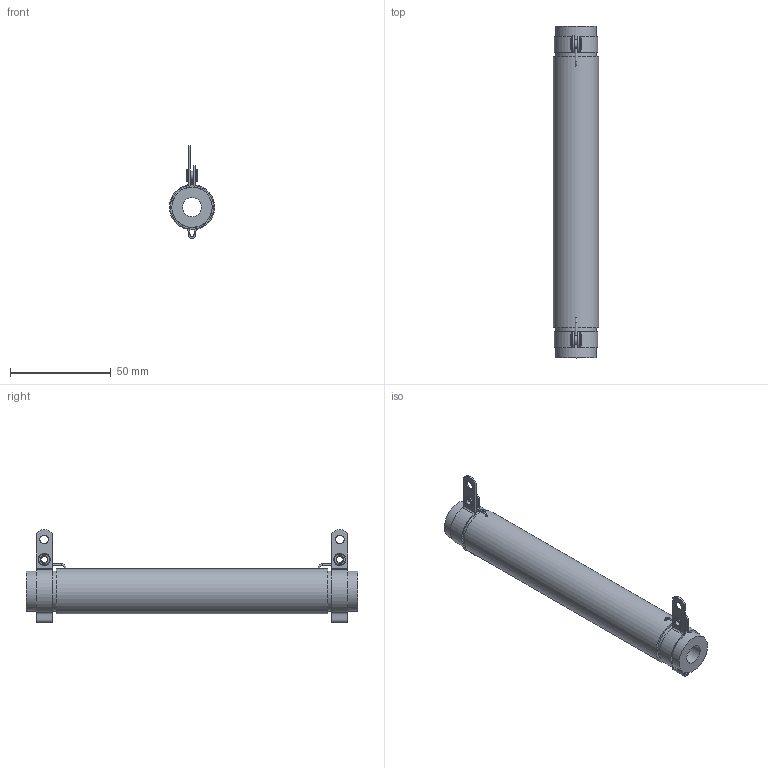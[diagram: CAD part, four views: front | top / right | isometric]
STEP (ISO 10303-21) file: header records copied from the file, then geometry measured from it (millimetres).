
FILE_DESCRIPTION(/* description */ (''),/* implementation_level */ '2;1');
FILE_NAME(/* name */ 'C:\_Vault\Dati\CATALOGO\RC-RS\TC\RS00110.stp',/* time_stamp */ '2014-01-22T17:38:04+01:00',/* author */ ('stefano'),/* organization */ (''),/* preprocessor_version */ 'ST-DEVELOPER v15.2',/* originating_system */ 'Autodesk Inventor 2014',/* authorisation */ '');
FILE_SCHEMA (('AUTOMOTIVE_DESIGN { 1 0 10303 214 3 1 1 }'));
Length unit declared in the file: millimetre
Products named in the file (1): RS00110
Bounding box: 22.5 x 165 x 46.2 mm (x, y, z)
Volume: 52717.7 mm3; surface area: 19047.1 mm2
Topology: 1 solids, 5 shells, 88 faces, 213 edges, 141 vertices
Faces by surface type: cylinder 38, plane 32, torus 10, bspline 8
Full cylindrical faces by diameter (mm): 0.4 x2, 0.8 x4, 3.2 x2, 4.2 x4, 6 x4, 9.5 x1, 20 x2, 22.5 x1
Entity records: 2989 total; most frequent: CARTESIAN_POINT 933, DIRECTION 398, ORIENTED_EDGE 340, AXIS2_PLACEMENT_3D 171, EDGE_CURVE 170, EDGE_LOOP 148, VERTEX_POINT 130, CIRCLE 90
